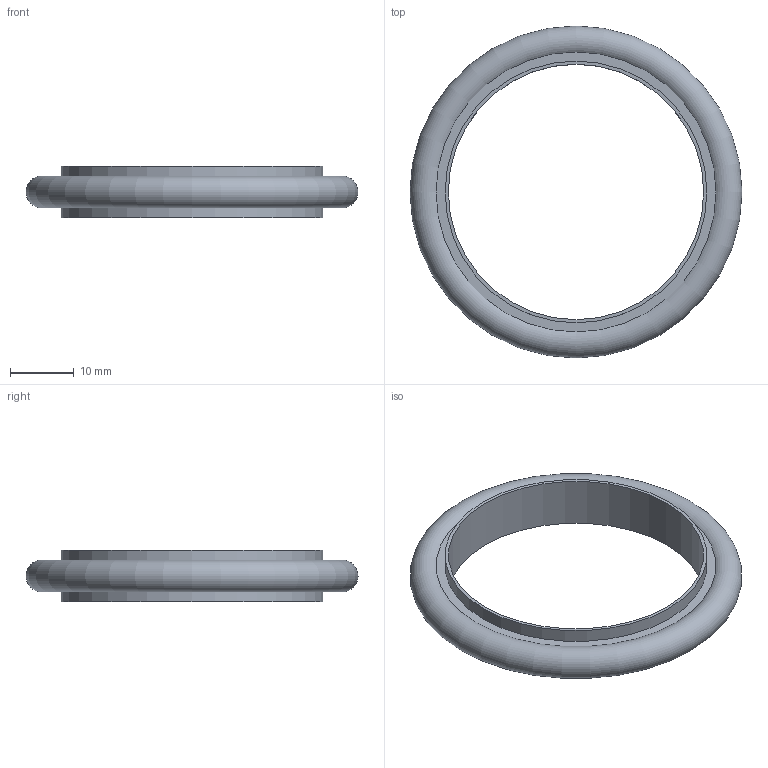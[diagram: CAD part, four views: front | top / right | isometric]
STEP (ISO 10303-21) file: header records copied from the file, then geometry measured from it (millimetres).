
FILE_DESCRIPTION( ( 'Unknown' ), '1' );
FILE_NAME( 'X:/Daten ( aktueller Bestand )/Projekte und Zeichnungen/Solid Edge/STP-Dateien/Dichtungsbauteile und Zubehör KF/1216N4.stp', 'Unknown', ( 'Unknown' ), ( 'Unknown' ), 'PSStep 14.0', 'Unknown', ' ' );
FILE_SCHEMA( ( 'AUTOMOTIVE_DESIGN { 1 0 10303 214 1 1 1 1 }' ) );
Length unit declared in the file: millimetre
Products named in the file (2): Assem1; 1_0_0
Assembly tree (1 placements, depth 2):
  Assem1
    1_0_0
Bounding box: 52 x 52 x 8 mm (x, y, z)
Volume: 3810.4 mm3; surface area: 3763.5 mm2
Topology: 1 solids, 1 shells, 8 faces, 12 edges, 8 vertices
Faces by surface type: plane 4, cylinder 3, torus 1
Full cylindrical faces by diameter (mm): 40 x1, 41 x2
Entity records: 270 total; most frequent: DIRECTION 36, CARTESIAN_POINT 26, AXIS2_PLACEMENT_3D 18, EDGE_LOOP 16, ORIENTED_EDGE 16, FACE_OUTER_BOUND 12, STYLED_ITEM 8, PRESENTATION_STYLE_ASSIGNMENT 8
